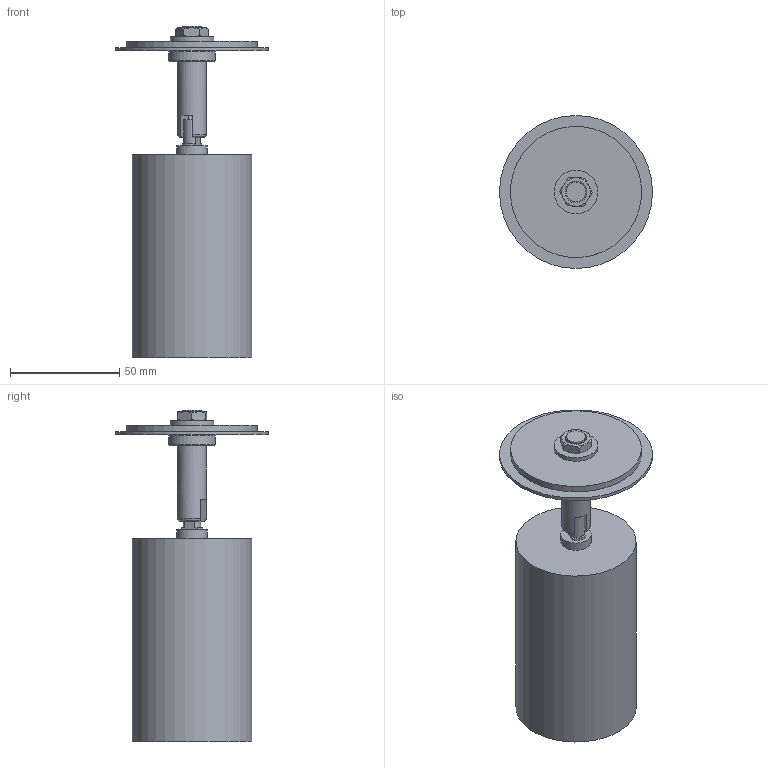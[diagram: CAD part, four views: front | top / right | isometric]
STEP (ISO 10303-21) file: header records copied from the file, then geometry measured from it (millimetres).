
FILE_DESCRIPTION(/* description */ (''),/* implementation_level */ '2;1');
FILE_NAME(/* name */ '260910_B_B786.stp',/* time_stamp */ '2026-09-10T08:22:24+02:00',/* author */ ('Dominik'),/* organization */ (''),/* preprocessor_version */ 'ST-DEVELOPER v20.1',/* originating_system */ 'Autodesk Inventor 2027',/* authorisation */ '');
FILE_SCHEMA (('AUTOMOTIVE_DESIGN { 1 0 10303 214 3 1 1 }'));
Length unit declared in the file: millimetre
Products named in the file (1): B786 jako częśc
Bounding box: 70 x 70 x 151.8 mm (x, y, z)
Volume: 117875.6 mm3; surface area: 58877.7 mm2
Topology: 2 solids, 6 shells, 101 faces, 197 edges, 126 vertices
Faces by surface type: plane 45, cylinder 30, cone 22, torus 3, bspline 1
Full cylindrical faces by diameter (mm): 3 x2, 4 x2, 9 x1, 9.75 x1, 10 x2, 10.5 x1, 13 x1, 14 x1, 16 x1, 16.5 x1, 20 x1, 21.5 x1, 50 x3, 50.6 x1, 51 x3, 55 x1, 60 x1, 70 x1
Entity records: 2835 total; most frequent: CARTESIAN_POINT 517, DIRECTION 475, ORIENTED_EDGE 394, AXIS2_PLACEMENT_3D 203, EDGE_CURVE 197, EDGE_LOOP 127, VERTEX_POINT 126, CIRCLE 102
